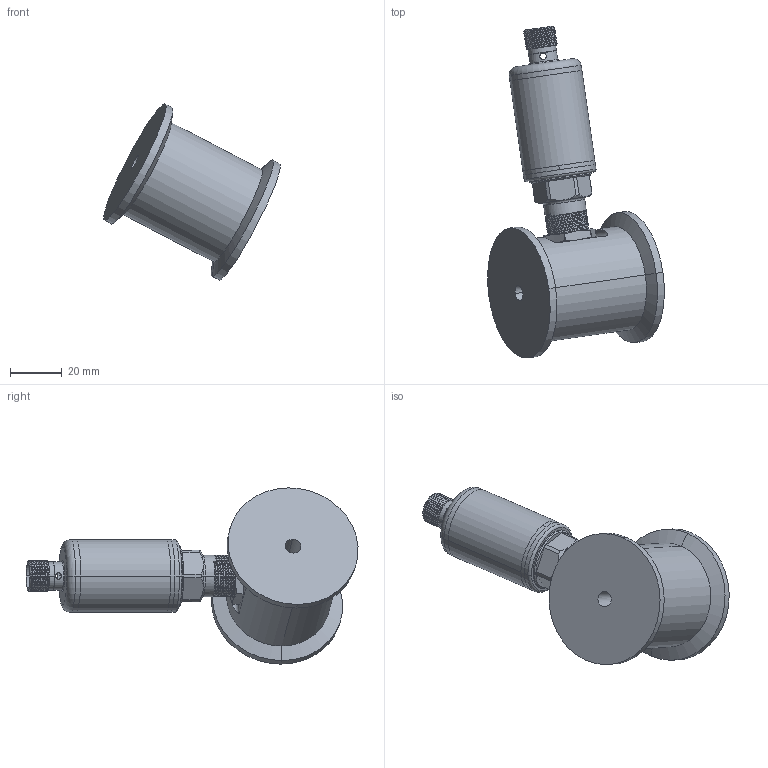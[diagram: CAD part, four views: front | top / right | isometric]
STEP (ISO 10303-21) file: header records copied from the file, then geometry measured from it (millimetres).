
FILE_DESCRIPTION (( 'STEP AP214' ), '1' );
FILE_NAME ('BFW1K06-J.STEP', '2025-11-05T01:25:15', ( '' ), ( '' ), 'SwSTEP 2.0', 'SolidWorks 2023', '' );
FILE_SCHEMA (( 'AUTOMOTIVE_DESIGN' ));
Length unit declared in the file: millimetre
Products named in the file (8): M16螺母; 探头; 压力变送器; DN4卡盘主体; BFW1K06-J; 连接管; 垫片; 壳体
Assembly tree (8 placements, depth 3):
  BFW1K06-J
    压力变送器
      壳体
      垫片
      连接管
      探头
    M16螺母  x2
    DN4卡盘主体
Bounding box: 68 x 127.78 x 67.82 mm (x, y, z)
Volume: 77912.5 mm3; surface area: 31310.3 mm2
Topology: 7 solids, 7 shells, 275 faces, 699 edges, 450 vertices
Faces by surface type: cylinder 136, cone 69, plane 54, torus 8, bspline 8
Entity records: 11610 total; most frequent: CARTESIAN_POINT 5932, ORIENTED_EDGE 1212, DIRECTION 1084, EDGE_CURVE 606, AXIS2_PLACEMENT_3D 435, VERTEX_POINT 389, EDGE_LOOP 273, ADVANCED_FACE 241
